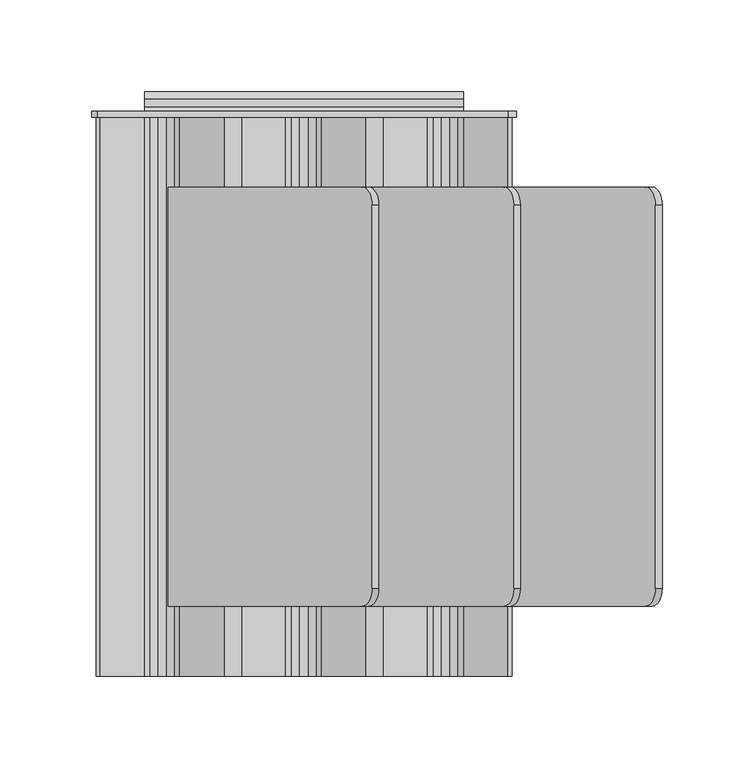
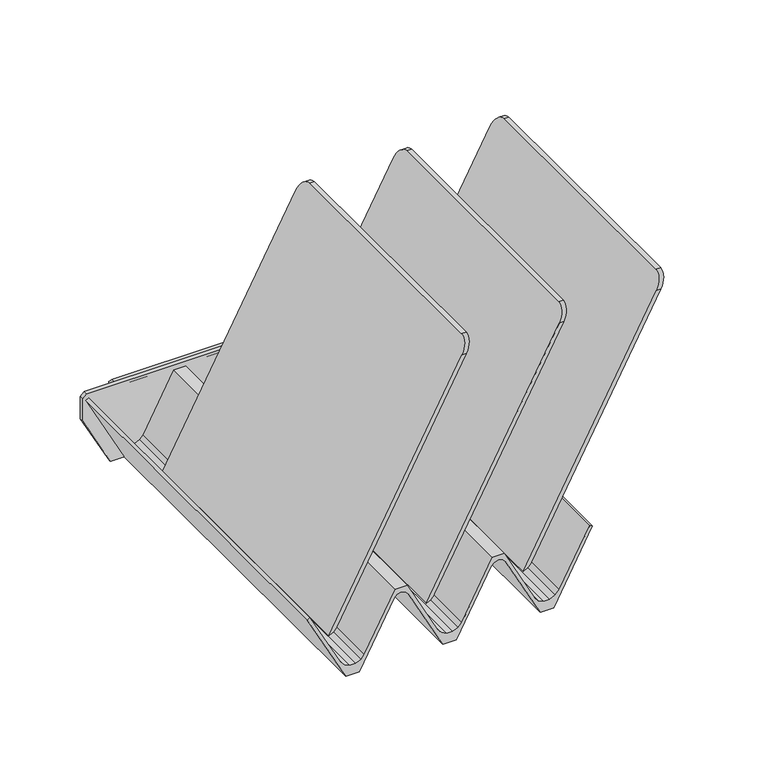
"""IFC4 building model written with IfcOpenShell, lengths in millimetres: furniture geometry."""

from ifc_helpers import new_model, si_unit, point, frame, frame_2d, origin, place, context, project, spatial, polyline, circle_curve, ellipse_curve, trimmed, segment, composite_curve, outline, extrude, source, transform, mapped, element, save
from ifc_brep_helpers import plane_surface, cylinder_surface, advanced_brep


def furniture_494cc3b8(model_context):
    return source(origin(), model_context, "Body", "SolidModel", [
        advanced_brep(
        [(-78.5076305, -115.8875182, 869.95), (-74.9117341, -115.8875182, 869.95), (35.3237269, -115.8875182, 1077.2727434), (31.7278836, -115.8875182, 1077.2727434), (-74.9117341, 112.7124864, 869.95), (-78.5076305, 112.7124864, 869.95), (31.7278836, 112.7124864, 1077.2727434), (35.3237269, 112.7124864, 1077.2727434), (40.728424, 102.8883555, 1087.4375), (40.728424, -105.9830355, 1087.4375), (37.1325833, 102.8883555, 1087.4375), (37.1325833, -105.9830355, 1087.4375)],
        [
            (0, 1),
            (1, 2),
            (2, 3),
            (3, 0),
            (4, 5),
            (5, 6),
            (6, 7),
            (7, 4),
            (0, 5),
            (4, 1),
            (7, 8, ellipse_curve(frame((35.3237269, 102.5418246, 1077.2727434), z_axis=(0.8829475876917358, 0.0, -0.46947157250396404), x_axis=(-0.4694715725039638, 0.0, -0.8829475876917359)), 11.518987, 10.1706618)),
            (8, 9),
            (9, 2, ellipse_curve(frame((35.3237269, -105.7193418, 1077.2727434), z_axis=(0.8829475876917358, 0.0, -0.46947157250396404), x_axis=(-0.4694715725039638, 0.0, -0.8829475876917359)), 11.5161721, 10.1681764)),
            (8, 10),
            (10, 11),
            (11, 9),
            (3, 11, ellipse_curve(frame((31.7278836, -105.7193418, 1077.2727434), z_axis=(-0.8829474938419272, 0.0, 0.4694717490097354), x_axis=(-0.46947174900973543, 0.0, -0.8829474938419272)), 11.5161734, 10.1681764)),
            (10, 6, ellipse_curve(frame((31.7278836, 102.5418246, 1077.2727434), z_axis=(-0.8829474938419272, 0.0, 0.4694717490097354), x_axis=(-0.46947174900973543, 0.0, -0.8829474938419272)), 11.5189882, 10.1706618)),
        ],
        [
            plane_surface(frame((-78.5076305, -115.8875182, 869.95), z_axis=(0.0, -1.0, 0.0), x_axis=(1.0, 0.0, 0.0))),
            plane_surface(frame((-78.5076305, 112.7124864, 869.95), z_axis=(0.0, 1.0, 0.0), x_axis=(-1.0, 0.0, 0.0))),
            plane_surface(frame((-78.5076305, -115.8875182, 869.95), z_axis=(0.0, 0.0, -1.0), x_axis=(0.0, 1.0, 0.0))),
            plane_surface(frame((-74.9117341, -115.8875182, 869.95), z_axis=(0.8829475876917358, 0.0, -0.46947157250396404), x_axis=(0.0, 1.0, 0.0))),
            plane_surface(frame((40.728424, -115.8875182, 1087.4375), z_axis=(0.0, 0.0, 1.0), x_axis=(0.0, 1.0, 0.0))),
            plane_surface(frame((37.1325833, -115.8875182, 1087.4375), z_axis=(-0.8829474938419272, 0.0, 0.4694717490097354), x_axis=(0.0, 1.0, 0.0))),
            cylinder_surface(frame((0.0, 102.5418246, 1077.2727434), z_axis=(-1.0, 0.0, 0.0), x_axis=(0.0, 1.0, 0.0)), 10.1706618),
            cylinder_surface(frame((0.0, -105.7193418, 1077.2727434), z_axis=(-1.0, 0.0, 0.0), x_axis=(0.0, 1.0, 0.0)), 10.1681764),
        ],
        [
            (0, [[1, 2, 3, 4]]),
            (1, [[5, 6, 7, 8]]),
            (2, [[-1, 9, -5, 10]]),
            (3, [[-10, -8, 11, 12, 13, -2]]),
            (4, [[-12, 14, 15, 16]]),
            (5, [[-9, -4, 17, -15, 18, -6]]),
            (6, [[-7, -18, -14, -11]]),
            (7, [[-3, -13, -16, -17]]),
        ],
    ),
        advanced_brep(
        [(-0.9107932, -115.8875182, 869.95), (2.3550823, -115.8875182, 869.95), (112.5905464, -115.8875182, 1077.2727434), (109.0097063, -115.8875182, 1077.2727434), (2.3550823, 112.7124864, 869.95), (-0.9107932, 112.7124864, 869.95), (109.0097063, 112.7124864, 1077.2727434), (112.5905464, 112.7124864, 1077.2727434), (117.9952436, 102.8883555, 1087.4375), (117.9952436, -105.9830355, 1087.4375), (114.3989613, 102.8883555, 1087.4375), (114.3989613, -105.9830355, 1087.4375)],
        [
            (0, 1),
            (1, 2),
            (2, 3),
            (3, 0),
            (4, 5),
            (5, 6),
            (6, 7),
            (7, 4),
            (0, 5),
            (4, 1),
            (7, 8, ellipse_curve(frame((112.5905464, 102.5418246, 1077.2727434), z_axis=(0.882947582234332, 0.0, -0.4694715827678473), x_axis=(-0.469471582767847, 0.0, -0.882947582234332)), 11.518987, 10.1706618)),
            (8, 9),
            (9, 2, ellipse_curve(frame((112.5905464, -105.7193418, 1077.2727434), z_axis=(0.882947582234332, 0.0, -0.4694715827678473), x_axis=(-0.469471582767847, 0.0, -0.882947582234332)), 11.5161722, 10.1681764)),
            (8, 10),
            (10, 11),
            (11, 9),
            (3, 11, ellipse_curve(frame((109.0097063, -105.7193418, 1077.2727434), z_axis=(-0.88350333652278, 0.0, 0.46842486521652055), x_axis=(-0.46842486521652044, 0.0, -0.88350333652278)), 11.5089281, 10.1681764)),
            (10, 6, ellipse_curve(frame((109.0097063, 102.5418246, 1077.2727434), z_axis=(-0.88350333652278, 0.0, 0.46842486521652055), x_axis=(-0.46842486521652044, 0.0, -0.88350333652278)), 11.5117412, 10.1706618)),
        ],
        [
            plane_surface(frame((-78.5076305, -115.8875182, 869.95), z_axis=(0.0, -1.0, 0.0), x_axis=(1.0, 0.0, 0.0))),
            plane_surface(frame((-78.5076305, 112.7124864, 869.95), z_axis=(0.0, 1.0, 0.0), x_axis=(-1.0, 0.0, 0.0))),
            plane_surface(frame((-0.9107932, -115.8875182, 869.95), z_axis=(0.0, 0.0, -1.0), x_axis=(0.0, 1.0, 0.0))),
            plane_surface(frame((2.3550823, -115.8875182, 869.95), z_axis=(0.882947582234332, 0.0, -0.4694715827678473), x_axis=(0.0, 1.0, 0.0))),
            plane_surface(frame((117.9952436, -115.8875182, 1087.4375), z_axis=(0.0, 0.0, 1.0), x_axis=(0.0, 1.0, 0.0))),
            plane_surface(frame((114.3989613, -115.8875182, 1087.4375), z_axis=(-0.88350333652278, 0.0, 0.46842486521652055), x_axis=(0.0, 1.0, 0.0))),
            cylinder_surface(frame((0.0, 102.5418246, 1077.2727434), z_axis=(-1.0, 0.0, 0.0), x_axis=(0.0, 1.0, 0.0)), 10.1706618),
            cylinder_surface(frame((0.0, -105.7193418, 1077.2727434), z_axis=(-1.0, 0.0, 0.0), x_axis=(0.0, 1.0, 0.0)), 10.1681764),
        ],
        [
            (0, [[1, 2, 3, 4]]),
            (1, [[5, 6, 7, 8]]),
            (2, [[-1, 9, -5, 10]]),
            (3, [[-10, -8, 11, 12, 13, -2]]),
            (4, [[-12, 14, 15, 16]]),
            (5, [[-9, -4, 17, -15, 18, -6]]),
            (6, [[-7, -18, -14, -11]]),
            (7, [[-3, -13, -16, -17]]),
        ],
    ),
        advanced_brep(
        [(76.0259689, -115.8875182, 869.95), (79.7811739, -115.8875182, 869.95), (190.0166176, -115.8875182, 1077.2727434), (186.2614289, -115.8875182, 1077.2727434), (79.7811739, 112.7124864, 869.95), (76.0259689, 112.7124864, 869.95), (186.2614289, 112.7124864, 1077.2727434), (190.0166176, 112.7124864, 1077.2727434), (195.4213139, 102.8883555, 1087.4375), (195.4213139, -105.9830355, 1087.4375), (191.666126, 102.8883555, 1087.4375), (191.666126, -105.9830355, 1087.4375)],
        [
            (0, 1),
            (1, 2),
            (2, 3),
            (3, 0),
            (4, 5),
            (5, 6),
            (6, 7),
            (7, 4),
            (0, 5),
            (4, 1),
            (7, 8, ellipse_curve(frame((190.0166176, 102.5418246, 1077.2727434), z_axis=(0.8829476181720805, 0.0, -0.46947151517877), x_axis=(-0.4694715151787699, 0.0, -0.8829476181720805)), 11.5189866, 10.1706618)),
            (8, 9),
            (9, 2, ellipse_curve(frame((190.0166176, -105.7193418, 1077.2727434), z_axis=(0.8829476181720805, 0.0, -0.46947151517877), x_axis=(-0.4694715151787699, 0.0, -0.8829476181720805)), 11.5161717, 10.1681764)),
            (8, 10),
            (10, 11),
            (11, 9),
            (3, 11, ellipse_curve(frame((186.2614289, -105.7193418, 1077.2727434), z_axis=(-0.8829475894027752, 0.0, 0.469471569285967), x_axis=(-0.46947156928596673, 0.0, -0.8829475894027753)), 11.5161721, 10.1681764)),
            (10, 6, ellipse_curve(frame((186.2614289, 102.5418246, 1077.2727434), z_axis=(-0.8829475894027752, 0.0, 0.469471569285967), x_axis=(-0.46947156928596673, 0.0, -0.8829475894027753)), 11.5189869, 10.1706618)),
        ],
        [
            plane_surface(frame((-78.5076305, -115.8875182, 869.95), z_axis=(0.0, -1.0, 0.0), x_axis=(1.0, 0.0, 0.0))),
            plane_surface(frame((-78.5076305, 112.7124864, 869.95), z_axis=(0.0, 1.0, 0.0), x_axis=(-1.0, 0.0, 0.0))),
            plane_surface(frame((76.0259689, -115.8875182, 869.95), z_axis=(0.0, 0.0, -1.0), x_axis=(0.0, 1.0, 0.0))),
            plane_surface(frame((79.7811739, -115.8875182, 869.95), z_axis=(0.8829476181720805, 0.0, -0.46947151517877), x_axis=(0.0, 1.0, 0.0))),
            plane_surface(frame((195.4213139, -115.8875182, 1087.4375), z_axis=(0.0, 0.0, 1.0), x_axis=(0.0, 1.0, 0.0))),
            plane_surface(frame((191.666126, -115.8875182, 1087.4375), z_axis=(-0.8829475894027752, 0.0, 0.469471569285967), x_axis=(0.0, 1.0, 0.0))),
            cylinder_surface(frame((0.0, 102.5418246, 1077.2727434), z_axis=(-1.0, 0.0, 0.0), x_axis=(0.0, 1.0, 0.0)), 10.1706618),
            cylinder_surface(frame((0.0, -105.7193418, 1077.2727434), z_axis=(-1.0, 0.0, 0.0), x_axis=(0.0, 1.0, 0.0)), 10.1681764),
        ],
        [
            (0, [[1, 2, 3, 4]]),
            (1, [[5, 6, 7, 8]]),
            (2, [[-1, 9, -5, 10]]),
            (3, [[-10, -8, 11, 12, 13, -2]]),
            (4, [[-12, 14, 15, 16]]),
            (5, [[-9, -4, 17, -15, 18, -6]]),
            (6, [[-7, -18, -14, -11]]),
            (7, [[-3, -13, -16, -17]]),
        ],
    ),
        extrude(outline(polyline([(928.1365504, -113.3404132), (869.95, -82.6180755), (869.95, -71.8286766), (922.4740623, -44.096121), (924.7406431, -41.9545616), (925.6523762, -38.676187), (924.7406431, -35.3978079), (922.2672571, -33.0608503), (869.95, -5.4374818), (869.95, 5.4381185), (922.4740614, 33.170679), (924.7406431, 35.3122394), (925.6523762, 38.5906094), (924.7406431, 41.8689885), (922.2114359, 44.2586883), (869.95, 71.9155202), (869.95, 82.7049229), (928.136546, 113.4272483), (929.2528432, 111.3130508), (883.8055096, 87.1482781), (880.1501541, 84.0519156), (878.1357104, 79.7054876), (878.1357104, 74.9149551), (880.1501541, 70.5685271), (883.9105361, 67.3831993), (929.3224984, 43.2968127), (929.3224984, 33.9240014), (883.3004275, 9.4536309), (880.1501541, 6.7851111), (878.1357104, 2.4386922), (878.1357104, -2.3518493), (880.5854746, -6.6982682), (884.1449621, -9.9738698), (929.3224984, -33.8274808), (929.3224984, -43.3428158), (883.3003747, -67.8132137), (880.1501541, -70.4816887), (878.1357104, -74.8281031), (878.1357104, -79.6186492), (880.1501541, -83.9650636), (883.8055262, -87.0614424), (929.322503, -111.0942793), (928.1365504, -113.3404132)])), frame((0.0, -153.9875, 0.0), z_axis=(0.0, 1.0, 0.0), x_axis=(0.0, 0.0, 1.0)), (0.0, 0.0, 1.0), 304.7999878),
        extrude(outline(polyline([(930.2749994, -115.844077), (911.6399607, -115.844077), (869.95, -93.8318941), (869.95, 93.918737), (911.6399607, 115.930929), (930.2749984, 115.930929), (933.4499985, 111.5932577), (933.4499985, -112.669078), (930.2749994, -115.844077)])), frame((0.0, 150.8124878, 0.0), z_axis=(0.0, 1.0, 0.0), x_axis=(0.0, 0.0, 1.0)), (0.0, 0.0, 1.0), 3.1750122),
        extrude(outline(composite_curve([segment(polyline([(164.6784774, 926.4612114), (164.6784774, 923.8834605)]), True, "CONTINUOUS"), segment(trimmed(circle_curve(frame_2d((162.7734784, 923.8834605)), 1.904999), [point((164.6784774, 923.8834605))], [point((160.8684793, 923.8834605))], False, "CARTESIAN"), True, "CONTINUOUS"), segment(polyline([(160.8684793, 923.8834605), (160.8684793, 926.4612114), (156.5435882, 926.4612114), (153.9875, 923.9051232), (153.9875, 933.4499985), (156.5435882, 930.2712113), (160.8684775, 930.2712113), (164.6784774, 926.4612114)]), True, "CONTINUOUS")], self_intersect=False)), frame((-87.0345642, 0.0, 0.0), z_axis=(1.0, 0.0, 0.0), x_axis=(0.0, 1.0, 0.0)), (0.0, 0.0, 1.0), 174.0691284),
    ])


if __name__ == "__main__":
    model = new_model("IFC4")
    model_context = context("Model", 3, world=origin())
    ifc_project = project(units=[si_unit("LENGTHUNIT", "METRE", prefix="MILLI")], contexts=[model_context])
    site = spatial("IfcSite", under=ifc_project)
    building = spatial("IfcBuilding", under=site)
    placement = place(None, origin())
    furniture_shape = furniture_494cc3b8(model_context)
    element("IfcFurniture", 1, ObjectType="HermanMiller_ThrivePortfolio_Y7218_DiagonalTray : 8 1/2\"H x 12\"D x 13\"W", at=placement, inside=building, context=model_context, shape_type="MappedRepresentation", body=[
        mapped(furniture_shape, transform((0.0, 0.0, 0.0), x_axis=(1.0, 0.0, 0.0), y_axis=(0.0, 1.0, 0.0), z_axis=(0.0, 0.0, 1.0))),
    ])
    save(model, "model.ifc")
